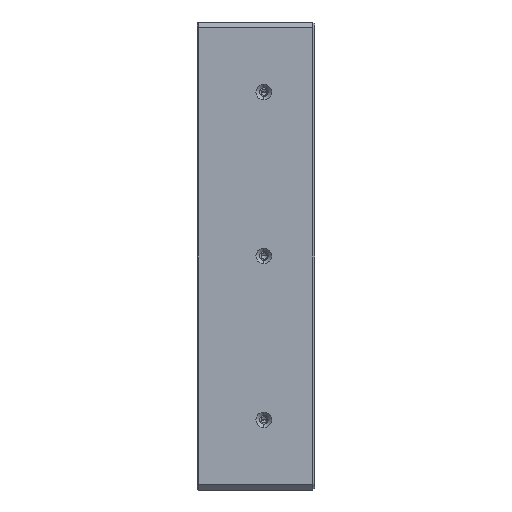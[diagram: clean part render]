
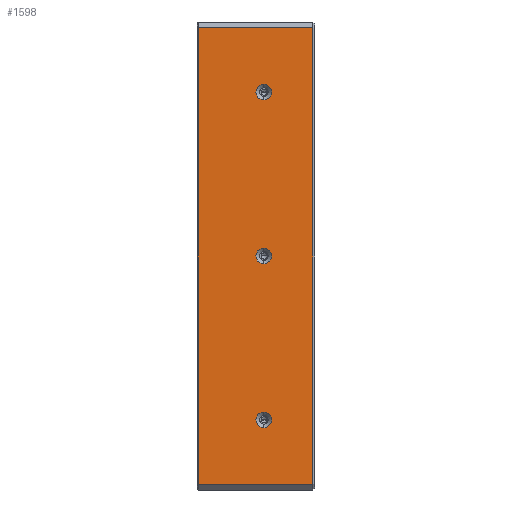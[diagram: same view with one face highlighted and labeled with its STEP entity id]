
A CAD part, left-side view. The second image highlights one B-rep face of the part: STEP entity #1598.
In plain terms, the highlighted planar face has unit normal (-1, 0, 0).
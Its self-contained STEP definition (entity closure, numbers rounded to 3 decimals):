
#28 = VECTOR ( 'NONE', #4569, 1000. ) ;
#126 = EDGE_LOOP ( 'NONE', ( #4453, #5519 ) ) ;
#155 = FACE_BOUND ( 'NONE', #10115, .T. ) ;
#209 = CARTESIAN_POINT ( 'NONE',  ( -94.493, 7.564, 56. ) ) ;
#275 = CIRCLE ( 'NONE', #4374, 2. ) ;
#554 = EDGE_CURVE ( 'NONE', #3136, #12814, #5528, .T. ) ;
#589 = CARTESIAN_POINT ( 'NONE',  ( -94.493, 24.364, 37.5 ) ) ;
#885 = CARTESIAN_POINT ( 'NONE',  ( -94.493, 7.564, 96. ) ) ;
#924 = DIRECTION ( 'NONE',  ( 0., 0., 1. ) ) ;
#1117 = DIRECTION ( 'NONE',  ( 0., 0., 1. ) ) ;
#1455 = CARTESIAN_POINT ( 'NONE',  ( -94.493, 24.564, 154.5 ) ) ;
#1479 = EDGE_LOOP ( 'NONE', ( #12032, #10125, #6940, #4146 ) ) ;
#1598 = ADVANCED_FACE ( 'NONE', ( #5971, #2414, #155, #1782 ), #8689, .F. ) ;
#1664 = VECTOR ( 'NONE', #4226, 1000. ) ;
#1782 = FACE_OUTER_BOUND ( 'NONE', #1479, .T. ) ;
#1964 = DIRECTION ( 'NONE',  ( 0., 0., 1. ) ) ;
#2414 = FACE_BOUND ( 'NONE', #12684, .T. ) ;
#2637 = CIRCLE ( 'NONE', #12090, 2. ) ;
#2833 = CARTESIAN_POINT ( 'NONE',  ( -94.493, 7.564, 138. ) ) ;
#3105 = EDGE_CURVE ( 'NONE', #11478, #12813, #11226, .T. ) ;
#3136 = VERTEX_POINT ( 'NONE', #5674 ) ;
#3144 = ORIENTED_EDGE ( 'NONE', *, *, #4228, .F. ) ;
#3306 = CARTESIAN_POINT ( 'NONE',  ( -94.493, -4.936, 36. ) ) ;
#3451 = EDGE_CURVE ( 'NONE', #12876, #5469, #275, .T. ) ;
#3468 = CARTESIAN_POINT ( 'NONE',  ( -94.493, 24.364, 37.5 ) ) ;
#3918 = EDGE_CURVE ( 'NONE', #5469, #12876, #11211, .T. ) ;
#3935 = DIRECTION ( 'NONE',  ( 0., 0., 1. ) ) ;
#3947 = CARTESIAN_POINT ( 'NONE',  ( -94.493, 7.564, 54. ) ) ;
#4102 = ORIENTED_EDGE ( 'NONE', *, *, #3918, .F. ) ;
#4146 = ORIENTED_EDGE ( 'NONE', *, *, #5032, .T. ) ;
#4159 = VECTOR ( 'NONE', #10833, 1000. ) ;
#4167 = DIRECTION ( 'NONE',  ( -1., 0., 0. ) ) ;
#4207 = CARTESIAN_POINT ( 'NONE',  ( -94.493, 7.564, 52. ) ) ;
#4218 = CARTESIAN_POINT ( 'NONE',  ( -94.493, 7.564, 94. ) ) ;
#4226 = DIRECTION ( 'NONE',  ( 0., 0., 1. ) ) ;
#4228 = EDGE_CURVE ( 'NONE', #12814, #3136, #6852, .T. ) ;
#4374 = AXIS2_PLACEMENT_3D ( 'NONE', #3947, #10230, #10193 ) ;
#4453 = ORIENTED_EDGE ( 'NONE', *, *, #4759, .F. ) ;
#4569 = DIRECTION ( 'NONE',  ( 0., 0., -1. ) ) ;
#4759 = EDGE_CURVE ( 'NONE', #12924, #10936, #2637, .T. ) ;
#4760 = DIRECTION ( 'NONE',  ( 0., 0., 1. ) ) ;
#4844 = LINE ( 'NONE', #7854, #7872 ) ;
#4857 = DIRECTION ( 'NONE',  ( 0., 0., -1. ) ) ;
#5032 = EDGE_CURVE ( 'NONE', #5312, #11478, #10603, .T. ) ;
#5147 = EDGE_CURVE ( 'NONE', #12813, #8865, #6461, .T. ) ;
#5312 = VERTEX_POINT ( 'NONE', #6777 ) ;
#5469 = VERTEX_POINT ( 'NONE', #4207 ) ;
#5519 = ORIENTED_EDGE ( 'NONE', *, *, #11658, .F. ) ;
#5528 = CIRCLE ( 'NONE', #12568, 2. ) ;
#5674 = CARTESIAN_POINT ( 'NONE',  ( -94.493, 7.564, 98. ) ) ;
#5777 = CARTESIAN_POINT ( 'NONE',  ( -94.493, -4.936, 154.5 ) ) ;
#5971 = FACE_BOUND ( 'NONE', #126, .T. ) ;
#5972 = DIRECTION ( 'NONE',  ( -1., 0., 0. ) ) ;
#6139 = ORIENTED_EDGE ( 'NONE', *, *, #554, .F. ) ;
#6457 = CARTESIAN_POINT ( 'NONE',  ( -94.493, 7.564, 140. ) ) ;
#6461 = LINE ( 'NONE', #3468, #28 ) ;
#6777 = CARTESIAN_POINT ( 'NONE',  ( -94.493, -4.936, 37.5 ) ) ;
#6852 = CIRCLE ( 'NONE', #9967, 2. ) ;
#6923 = CARTESIAN_POINT ( 'NONE',  ( -94.493, 24.564, 36. ) ) ;
#6940 = ORIENTED_EDGE ( 'NONE', *, *, #10114, .T. ) ;
#7325 = CARTESIAN_POINT ( 'NONE',  ( -94.493, 7.564, 136. ) ) ;
#7854 = CARTESIAN_POINT ( 'NONE',  ( -94.493, 24.564, 37.5 ) ) ;
#7872 = VECTOR ( 'NONE', #10012, 1000. ) ;
#8370 = AXIS2_PLACEMENT_3D ( 'NONE', #6923, #8785, #4857 ) ;
#8689 = PLANE ( 'NONE',  #8370 ) ;
#8785 = DIRECTION ( 'NONE',  ( 1., 0., 0. ) ) ;
#8865 = VERTEX_POINT ( 'NONE', #589 ) ;
#8954 = AXIS2_PLACEMENT_3D ( 'NONE', #2833, #5972, #1964 ) ;
#9031 = AXIS2_PLACEMENT_3D ( 'NONE', #9061, #10087, #4760 ) ;
#9061 = CARTESIAN_POINT ( 'NONE',  ( -94.493, 7.564, 54. ) ) ;
#9276 = ORIENTED_EDGE ( 'NONE', *, *, #3451, .F. ) ;
#9484 = CARTESIAN_POINT ( 'NONE',  ( -94.493, 7.564, 96. ) ) ;
#9967 = AXIS2_PLACEMENT_3D ( 'NONE', #9484, #4167, #1117 ) ;
#10012 = DIRECTION ( 'NONE',  ( 0., -1., 0. ) ) ;
#10087 = DIRECTION ( 'NONE',  ( -1., 0., 0. ) ) ;
#10114 = EDGE_CURVE ( 'NONE', #8865, #5312, #4844, .T. ) ;
#10115 = EDGE_LOOP ( 'NONE', ( #9276, #4102 ) ) ;
#10125 = ORIENTED_EDGE ( 'NONE', *, *, #5147, .T. ) ;
#10193 = DIRECTION ( 'NONE',  ( 0., 0., 1. ) ) ;
#10230 = DIRECTION ( 'NONE',  ( -1., 0., 0. ) ) ;
#10603 = LINE ( 'NONE', #3306, #1664 ) ;
#10687 = CIRCLE ( 'NONE', #8954, 2. ) ;
#10833 = DIRECTION ( 'NONE',  ( 0., 1., 0. ) ) ;
#10936 = VERTEX_POINT ( 'NONE', #7325 ) ;
#11211 = CIRCLE ( 'NONE', #9031, 2. ) ;
#11226 = LINE ( 'NONE', #1455, #4159 ) ;
#11397 = CARTESIAN_POINT ( 'NONE',  ( -94.493, 24.364, 154.5 ) ) ;
#11478 = VERTEX_POINT ( 'NONE', #5777 ) ;
#11658 = EDGE_CURVE ( 'NONE', #10936, #12924, #10687, .T. ) ;
#12032 = ORIENTED_EDGE ( 'NONE', *, *, #3105, .T. ) ;
#12085 = DIRECTION ( 'NONE',  ( -1., 0., 0. ) ) ;
#12090 = AXIS2_PLACEMENT_3D ( 'NONE', #13103, #12085, #3935 ) ;
#12568 = AXIS2_PLACEMENT_3D ( 'NONE', #885, #13218, #924 ) ;
#12684 = EDGE_LOOP ( 'NONE', ( #6139, #3144 ) ) ;
#12813 = VERTEX_POINT ( 'NONE', #11397 ) ;
#12814 = VERTEX_POINT ( 'NONE', #4218 ) ;
#12876 = VERTEX_POINT ( 'NONE', #209 ) ;
#12924 = VERTEX_POINT ( 'NONE', #6457 ) ;
#13103 = CARTESIAN_POINT ( 'NONE',  ( -94.493, 7.564, 138. ) ) ;
#13218 = DIRECTION ( 'NONE',  ( -1., 0., 0. ) ) ;
